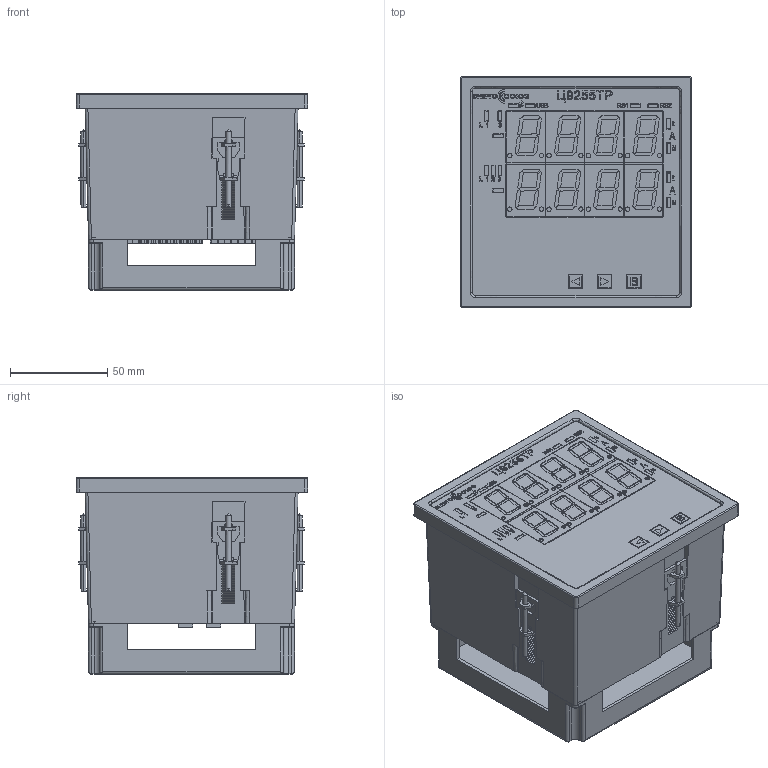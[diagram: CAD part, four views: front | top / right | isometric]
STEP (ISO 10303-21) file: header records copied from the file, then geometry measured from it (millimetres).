
FILE_DESCRIPTION (( 'STEP AP214' ), '1' );
FILE_NAME ('ñ9255tr_2c_120x120x103.STEP', '2025-01-17T09:25:07', ( '' ), ( '' ), 'SwSTEP 2.0', 'SolidWorks 2021', '' );
FILE_SCHEMA (( 'AUTOMOTIVE_DESIGN' ));
Length unit declared in the file: millimetre
Products named in the file (60): Êîïèÿ mark-FYS-8011^Êîïèÿ (2) Êîïèÿ indicator-FYS-8011_c9255tr-2c_step; User Library-Micro USB_typeB_10118192-0001LF FCI; Êîïèÿ 15EDGRC-3.5-06P^c9255tr-2c; 櫻蠉錪6^DG271R-5.0-2-x; Êîïèÿ mark-FYS-8011^Êîïèÿ (6) Êîïèÿ indicator-FYS-8011_c9255tr-2c_step; border_for_body_elc_120x120x103; indicator-FYS-8011_step; Êîïèÿ mark-FYS-8011^Êîïèÿ (7) Êîïèÿ indicator-FYS-8011_c9255tr-2c_step; Êîïèÿ mark-FYS-8011^Êîïèÿ (5) Êîïèÿ indicator-FYS-8011_c9255tr-2c_step; Êîïèÿ mark-FYS-8011^Êîïèÿ Êîïèÿ indicator-FYS-8011_c9255tr-2c_step; Âèíò äëÿ ñêîáû ÖÔ9285_step; 15EDGVC-3.5-sidewall; Êîïèÿ (5) Êîïèÿ indicator-FYS-8011^c9255tr-2c_step; Êîïèÿ 15EDGRC-3.5-01P^15EDGRC-3.5-04P; 3-input-label^c9255tr-2c_step; Çàäíÿÿ êðûøêà ÖÔ9285; Êîïèÿ mark-FYS-8011^Êîïèÿ (3) Êîïèÿ indicator-FYS-8011_c9255tr-2c_step; blue-led-5_step; 15EDGRC-3.5-01P; Êîïèÿ mark-FYS-8011^Êîïèÿ (8) Êîïèÿ indicator-FYS-8011_c9255tr-2c_step; Êîïèÿ (2) Êîïèÿ indicator-FYS-8011^c9255tr-2c_step; body_elc_120x120x103_step; Ñêîáà ÖÔ9285; ñêîáà-1; Êîïèÿ (3) Êîïèÿ indicator-FYS-8011^c9255tr-2c_step; Êîïèÿ 15EDGVC-3.5-sidewall^15EDGRC-3.5-04P; Êîïèÿ Êîïèÿ ïåðåäíÿÿ_ïàíåëü^c9255tr-2c_step; DG271R-body_step; DG271R-body; Êîïèÿ (8) Êîïèÿ indicator-FYS-8011^c9255tr-2c_step; no-color-led-5; red-led-with-border_step; Êîïèÿ no-color-led-5^c9255tr-2c; 櫻蠉錪2^DG271R-5.0-2-x; 15EDGRC-3.5-06P; indicator-FYS-8011; DG271R-5.0-2-x; 櫻蠉錪6^DG271R-5.0-4-x_step; green-led-5_step; RS-485-label^c9255tr-2c_step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
Assembly tree (99 placements, depth 3):
  Êîïèÿ mark-FYS-8011^Êîïèÿ (2) Êîïèÿ indicator-FYS-8011_c9255tr-2c_step
  櫻蠉錪6^DG271R-5.0-2-x
  Êîïèÿ mark-FYS-8011^Êîïèÿ (6) Êîïèÿ indicator-FYS-8011_c9255tr-2c_step
  Êîïèÿ mark-FYS-8011^Êîïèÿ (7) Êîïèÿ indicator-FYS-8011_c9255tr-2c_step
  Êîïèÿ mark-FYS-8011^Êîïèÿ (5) Êîïèÿ indicator-FYS-8011_c9255tr-2c_step
Bounding box: 119 x 119 x 101.11 mm (x, y, z)
Volume: 180388.3 mm3; surface area: 219901.9 mm2
Topology: 264 solids, 264 shells, 8701 faces, 22375 edges, 14474 vertices
Faces by surface type: plane 5870, cylinder 1709, bspline 934, cone 128, sphere 48, torus 12
Entity records: 228686 total; most frequent: CARTESIAN_POINT 83676, ORIENTED_EDGE 26692, DIRECTION 20428, EDGE_CURVE 13346, VECTOR 9156, LINE 9156, VERTEX_POINT 8724, AXIS2_PLACEMENT_3D 5636
